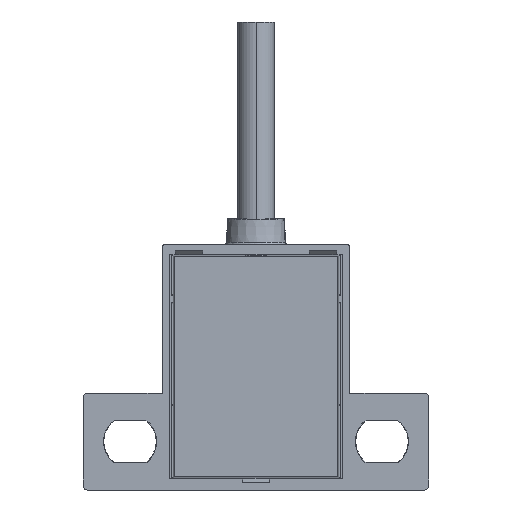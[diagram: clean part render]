
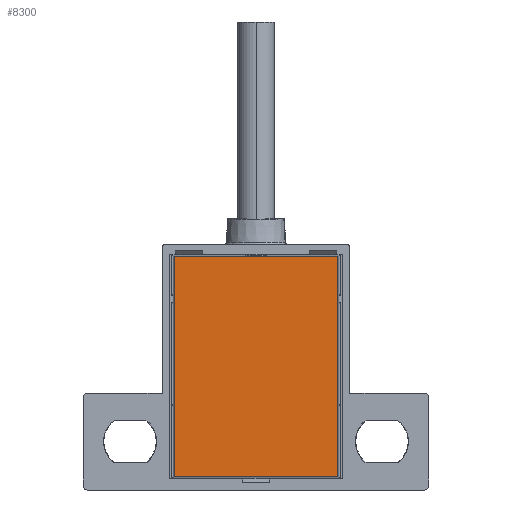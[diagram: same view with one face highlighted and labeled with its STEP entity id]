
A CAD part, front view. The second image highlights one B-rep face of the part: STEP entity #8300.
In plain terms, the highlighted planar face has unit normal (0, -1, 0).
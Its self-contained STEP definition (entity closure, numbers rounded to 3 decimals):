
#7479=DIRECTION('',(-1.,0.,0.));
#7480=VECTOR('',#7479,12.46);
#7481=CARTESIAN_POINT('',(112.698,-9.116,48.062));
#7482=LINE('',#7481,#7480);
#7503=DIRECTION('',(0.,0.,-1.));
#7504=VECTOR('',#7503,16.81);
#7505=CARTESIAN_POINT('',(112.698,-9.116,64.872));
#7506=LINE('',#7505,#7504);
#7559=DIRECTION('',(1.,0.,0.));
#7560=VECTOR('',#7559,12.46);
#7561=CARTESIAN_POINT('',(100.238,-9.116,64.872));
#7562=LINE('',#7561,#7560);
#7571=DIRECTION('',(0.,0.,1.));
#7572=VECTOR('',#7571,16.81);
#7573=CARTESIAN_POINT('',(100.238,-9.116,48.062));
#7574=LINE('',#7573,#7572);
#8100=CARTESIAN_POINT('',(112.698,-9.116,48.062));
#8101=CARTESIAN_POINT('',(100.238,-9.116,48.062));
#8102=VERTEX_POINT('',#8100);
#8103=VERTEX_POINT('',#8101);
#8104=CARTESIAN_POINT('',(112.698,-9.116,64.872));
#8105=VERTEX_POINT('',#8104);
#8106=CARTESIAN_POINT('',(100.238,-9.116,64.872));
#8107=VERTEX_POINT('',#8106);
#8285=CARTESIAN_POINT('',(106.468,-9.116,50.767));
#8286=DIRECTION('',(0.,1.,0.));
#8287=DIRECTION('',(-1.,0.,0.));
#8288=AXIS2_PLACEMENT_3D('',#8285,#8286,#8287);
#8289=PLANE('',#8288);
#8291=ORIENTED_EDGE('',*,*,#8290,.T.);
#8293=ORIENTED_EDGE('',*,*,#8292,.T.);
#8295=ORIENTED_EDGE('',*,*,#8294,.T.);
#8297=ORIENTED_EDGE('',*,*,#8296,.T.);
#8298=EDGE_LOOP('',(#8291,#8293,#8295,#8297));
#8299=FACE_OUTER_BOUND('',#8298,.F.);
#8290=EDGE_CURVE('',#8102,#8103,#7482,.T.);
#8292=EDGE_CURVE('',#8103,#8107,#7574,.T.);
#8294=EDGE_CURVE('',#8107,#8105,#7562,.T.);
#8296=EDGE_CURVE('',#8105,#8102,#7506,.T.);
#8300=ADVANCED_FACE('',(#8299),#8289,.F.);
